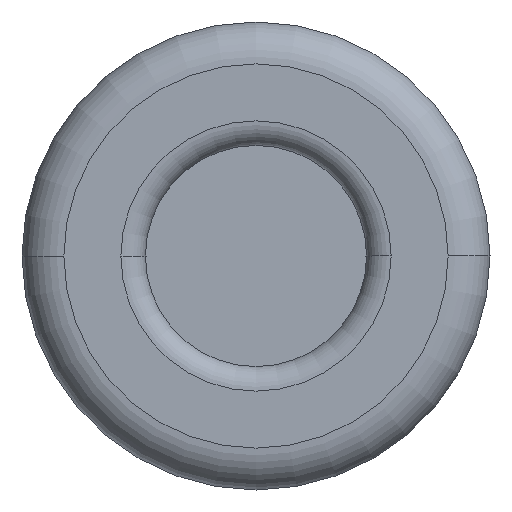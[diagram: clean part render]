
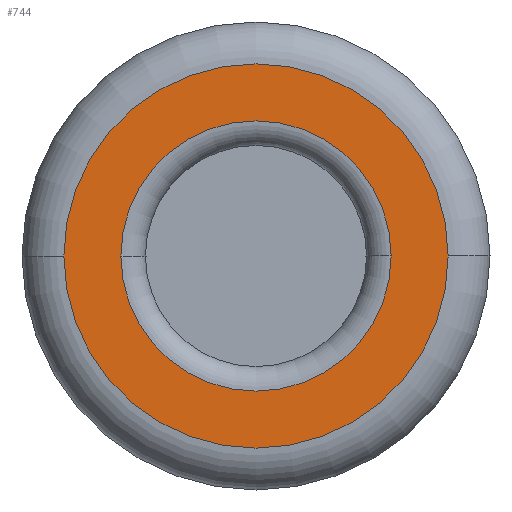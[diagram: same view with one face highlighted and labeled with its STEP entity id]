
A CAD part, front view. The second image highlights one B-rep face of the part: STEP entity #744.
In plain terms, the highlighted planar face has unit normal (0, -1, 0).
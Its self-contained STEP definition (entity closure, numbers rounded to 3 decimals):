
#744=ADVANCED_FACE('',(#1422,#1423),#1424,.T.);
#1422=FACE_OUTER_BOUND('',#2118,.T.);
#1423=FACE_BOUND('',#2119,.T.);
#1424=PLANE('',#2120);
#2118=EDGE_LOOP('',(#3884,#3885));
#2119=EDGE_LOOP('',(#3886,#3887));
#2120=AXIS2_PLACEMENT_3D('',#3888,#3889,#3890);
#3884=ORIENTED_EDGE('',*,*,#4619,.F.);
#3885=ORIENTED_EDGE('',*,*,#4653,.F.);
#3886=ORIENTED_EDGE('',*,*,#4659,.T.);
#3887=ORIENTED_EDGE('',*,*,#4660,.T.);
#3888=CARTESIAN_POINT('',(-2.75,-41.25,0.0));
#3889=DIRECTION('',(0.,-1.0,0.0));
#3890=DIRECTION('',(0.0,0.0,-1.0));
#4619=EDGE_CURVE('',#5606,#5607,#5608,.T.);
#4653=EDGE_CURVE('',#5607,#5606,#5655,.T.);
#4659=EDGE_CURVE('',#5661,#5662,#5663,.T.);
#4660=EDGE_CURVE('',#5662,#5661,#5664,.T.);
#5606=VERTEX_POINT('',#6785);
#5607=VERTEX_POINT('',#6786);
#5608=CIRCLE('',#6787,3.911);
#5655=CIRCLE('',#6838,3.911);
#5661=VERTEX_POINT('',#6846);
#5662=VERTEX_POINT('',#6847);
#5663=CIRCLE('',#6848,2.75);
#5664=CIRCLE('',#6849,2.75);
#6785=CARTESIAN_POINT('',(-3.911,-41.25,0.0));
#6786=CARTESIAN_POINT('',(3.911,-41.25,0.));
#6787=AXIS2_PLACEMENT_3D('',#7887,#7888,#7889);
#6838=AXIS2_PLACEMENT_3D('',#7954,#7955,#7956);
#6846=CARTESIAN_POINT('',(-2.75,-41.25,0.0));
#6847=CARTESIAN_POINT('',(2.75,-41.25,0.));
#6848=AXIS2_PLACEMENT_3D('',#7962,#7963,#7964);
#6849=AXIS2_PLACEMENT_3D('',#7965,#7966,#7967);
#7887=CARTESIAN_POINT('',(0.,-41.25,0.0));
#7888=DIRECTION('',(0.0,1.0,0.0));
#7889=DIRECTION('',(-1.0,0.0,0.0));
#7954=CARTESIAN_POINT('',(0.,-41.25,0.0));
#7955=DIRECTION('',(0.0,1.0,0.0));
#7956=DIRECTION('',(-1.0,0.0,0.0));
#7962=CARTESIAN_POINT('',(0.,-41.25,0.0));
#7963=DIRECTION('',(0.0,1.0,0.0));
#7964=DIRECTION('',(-1.0,0.0,0.0));
#7965=CARTESIAN_POINT('',(0.,-41.25,0.0));
#7966=DIRECTION('',(0.0,1.0,0.0));
#7967=DIRECTION('',(-1.0,0.0,0.0));
